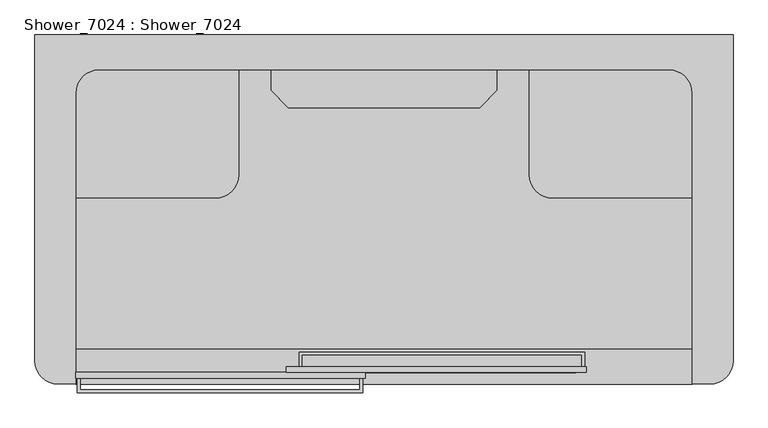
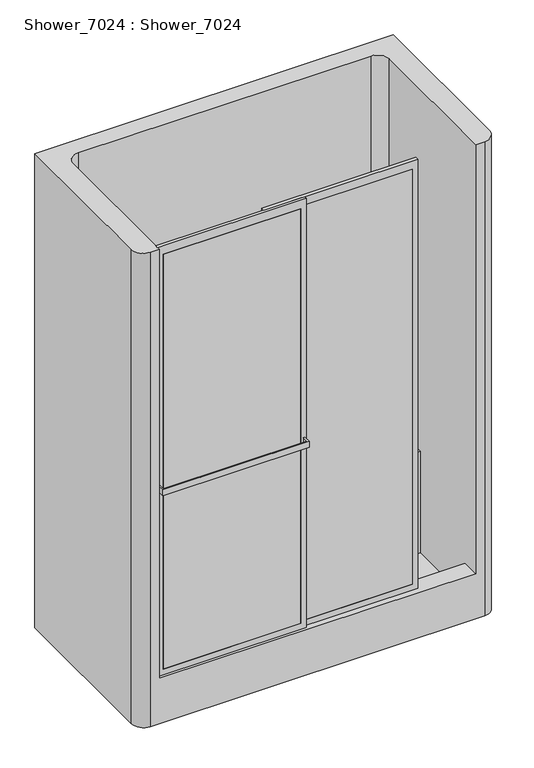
"""IFC4 building model written with IfcOpenShell, lengths in millimetres: flow terminal geometry, Shower_7024 : Shower_7024."""

from ifc_helpers import new_model, si_unit, point, frame, frame_2d, origin, place, context, project, spatial, polyline, circle_curve, trimmed, segment, composite_curve, outline, extrude, faceted_brep, source, transform, mapped, element, save
from ifc_brep_helpers import plane_surface, cylinder_surface, revolved_surface, advanced_brep


def shower_7024_shower_7024_a4580cfa(model_context):
    return source(origin(), model_context, "Body", "SolidModel", [
        extrude(outline(polyline([(-146.84375, -768.35), (476.1789404, -768.35), (476.1789404, -800.1), (469.8289404, -800.1), (469.8289404, -774.7), (-141.2344719, -774.7), (-141.2344719, -800.1), (-146.84375, -800.1), (-146.84375, -768.35)])), frame((0.0, 0.0, 1036.0429691), z_axis=(0.0, 0.0, 1.0), x_axis=(1.0, 0.0, 0.0)), (0.0, 0.0, 1.0), 25.4),
        extrude(outline(polyline([(-631.03125, -857.25), (-631.03125, -825.5), (-625.4219719, -825.5), (-625.4219719, -850.9), (-14.3585596, -850.9), (-14.3585596, -825.5), (-8.0085596, -825.5), (-8.0085596, -857.25), (-631.03125, -857.25)])), frame((0.0, 0.0, 1036.0429691), z_axis=(0.0, 0.0, 1.0), x_axis=(1.0, 0.0, 0.0)), (0.0, 0.0, 1.0), 25.4),
        extrude(outline(polyline([(2133.6, 479.3759501), (2133.6, -175.6674756), (203.2, -175.6674756), (203.2, 479.3759501), (2133.6, 479.3759501)]), holes=[polyline([(2095.2762363, 457.2), (229.410232, 457.2), (229.410232, -152.4), (2095.2762363, -152.4), (2095.2762363, 457.2)])]), frame((0.0, -812.8, 0.0), z_axis=(0.0, 1.0, 0.0), x_axis=(0.0, 0.0, 1.0)), (0.0, 0.0, 1.0), 12.7),
        extrude(outline(polyline([(457.2, -812.8), (-152.4, -812.8), (-152.4, -800.1), (457.2, -800.1), (457.2, -812.8)])), frame((0.0, 0.0, 229.410232), z_axis=(0.0, 0.0, 1.0), x_axis=(1.0, 0.0, 0.0)), (0.0, 0.0, 1.0), 1865.8660043),
        extrude(outline(polyline([(2133.6, -2.895103), (2133.6, -635.0), (203.2, -635.0), (203.2, -2.895103), (2133.6, -2.895103)]), holes=[polyline([(2095.2762363, -25.4), (229.410232, -25.4), (229.410232, -611.2742901), (2095.2762363, -611.2742901), (2095.2762363, -25.4)])]), frame((0.0, -825.5, 0.0), z_axis=(0.0, 1.0, 0.0), x_axis=(0.0, 0.0, 1.0)), (0.0, 0.0, 1.0), 12.7),
        extrude(outline(polyline([(-25.4, -825.5), (-611.2742901, -825.5), (-611.2742901, -812.8), (-25.4, -812.8), (-25.4, -825.5)])), frame((0.0, 0.0, 229.410232), z_axis=(0.0, 0.0, 1.0), x_axis=(1.0, 0.0, 0.0)), (0.0, 0.0, 1.0), 1865.8660043),
        faceted_brep([(-208.4605122, -196.85, 1389.3112655), (-170.3605122, -234.95, 1389.3112655), (246.5605122, -234.95, 1389.3112655), (284.6605122, -196.85, 1389.3112655), (284.6605122, -152.4, 1389.3112655), (-208.4605122, -152.4, 1389.3112655), (-208.4605122, -196.85, 625.0857334), (-208.4605122, -152.4, 625.0857334), (284.6605122, -152.4, 625.0857334), (284.6605122, -196.85, 625.0857334), (246.5605122, -234.95, 625.0857334), (-170.3605122, -234.95, 625.0857334), (-170.3605122, -234.95, 660.4), (-190.5, -214.8105122, 660.4), (-190.5, -214.8105122, 863.6), (-170.3605122, -234.95, 863.6), (-170.3605122, -234.95, 908.05), (-190.5, -214.8105122, 908.05), (-190.5, -214.8105122, 1111.25), (-170.3605122, -234.95, 1111.25), (-170.3605122, -234.95, 1162.05), (-190.5, -214.8105122, 1162.05), (-190.5, -214.8105122, 1365.25), (-170.3605122, -234.95, 1365.25), (246.5605122, -234.95, 1365.25), (246.5605122, -234.95, 660.4), (246.5605122, -234.95, 863.6), (246.5605122, -234.95, 908.05), (246.5605122, -234.95, 1111.25), (246.5605122, -234.95, 1162.05), (266.7, -214.8105122, 1365.25), (266.7, -214.8105122, 1162.05), (266.7, -214.8105122, 1111.25), (266.7, -214.8105122, 908.05), (266.7, -214.8105122, 863.6), (266.7, -214.8105122, 660.4), (266.7, -163.5489759, 660.4), (266.7, -163.5489759, 863.6), (-190.5, -163.5489759, 863.6), (-190.5, -163.5489759, 660.4), (266.7, -163.5489759, 908.05), (266.7, -163.5489759, 1111.25), (-190.5, -163.5489759, 1111.25), (-190.5, -163.5489759, 908.05), (266.7, -163.5489759, 1162.05), (266.7, -163.5489759, 1365.25), (-190.5, -163.5489759, 1365.25), (-190.5, -163.5489759, 1162.05)], [[[0, 1, 2, 3, 4, 5]], [[6, 7, 8, 9, 10, 11]], [[1, 0, 6, 11, 12, 13, 14, 15, 16, 17, 18, 19, 20, 21, 22, 23]], [[2, 1, 23, 24]], [[11, 10, 25, 12]], [[16, 15, 26, 27]], [[20, 19, 28, 29]], [[3, 2, 24, 30, 31, 29, 28, 32, 33, 27, 26, 34, 35, 25, 10, 9]], [[4, 3, 9, 8]], [[5, 4, 8, 7]], [[0, 5, 7, 6]], [[36, 37, 38, 39]], [[40, 41, 42, 43]], [[44, 45, 46, 47]], [[36, 39, 13, 12, 25, 35]], [[39, 38, 14, 13]], [[38, 37, 34, 26, 15, 14]], [[37, 36, 35, 34]], [[40, 43, 17, 16, 27, 33]], [[43, 42, 18, 17]], [[42, 41, 32, 28, 19, 18]], [[41, 40, 33, 32]], [[44, 47, 21, 20, 29, 31]], [[47, 46, 22, 21]], [[46, 45, 30, 24, 23, 22]], [[45, 44, 31, 30]]]),
        extrude(outline(composite_curve([segment(polyline([(-330.2, -431.8), (-635.0, -431.8), (-635.0, -152.4), (-279.4, -152.4), (-279.4, -381.0)]), True, "CONTINUOUS"), segment(trimmed(circle_curve(frame_2d((-330.2, -381.0)), 50.8), [point((-279.4, -381.0))], [point((-330.2, -431.8))], False, "CARTESIAN"), True, "CONTINUOUS")], self_intersect=False)), frame((0.0, 0.0, 50.8), z_axis=(0.0, 0.0, 1.0), x_axis=(1.0, 0.0, 0.0)), (0.0, 0.0, 1.0), 457.2),
        extrude(outline(composite_curve([segment(trimmed(circle_curve(frame_2d((406.4, -381.0)), 50.8), [point((406.4, -431.8))], [point((355.6, -381.0))], False, "CARTESIAN"), True, "CONTINUOUS"), segment(polyline([(355.6, -381.0), (355.6, -152.4), (711.2, -152.4), (711.2, -431.8), (406.4, -431.8)]), True, "CONTINUOUS")], self_intersect=False)), frame((0.0, 0.0, 50.8), z_axis=(0.0, 0.0, 1.0), x_axis=(1.0, 0.0, 0.0)), (0.0, 0.0, 1.0), 457.2),
        advanced_brep(
        [(-723.9, -787.4, 2133.6), (-673.1, -838.2, 2133.6), (-635.0, -838.2, 2133.6), (-635.0, -203.2, 2133.6), (-584.2, -152.4, 2133.6), (660.4, -152.4, 2133.6), (711.2, -203.2, 2133.6), (711.2, -838.2, 2133.6), (749.3, -838.2, 2133.6), (800.1, -787.4, 2133.6), (800.1, -76.2, 2133.6), (-723.9, -76.2, 2133.6), (-723.9, -787.4, 0.0), (-723.9, -76.2, 0.0), (800.1, -76.2, 0.0), (800.1, -787.4, 0.0), (749.3, -838.2, 0.0), (-673.1, -838.2, 0.0), (711.2, -838.2, 203.2), (-635.0, -838.2, 203.2), (711.2, -762.0, 203.2), (-635.0, -762.0, 203.2), (711.2, -203.2, 203.2), (711.2, -152.4, 203.2), (711.2, -152.4, 50.8), (711.2, -762.0, 50.8), (-635.0, -203.2, 203.2), (-635.0, -762.0, 50.8), (-635.0, -152.4, 50.8), (-635.0, -152.4, 203.2), (-584.2, -152.4, 203.2), (660.4, -152.4, 203.2)],
        [
            (0, 1, circle_curve(frame((-673.1, -787.4, 2133.6), z_axis=(0.0, 0.0, 1.0), x_axis=(1.0, 0.0, 0.0)), 50.8)),
            (1, 2),
            (2, 3),
            (3, 4, circle_curve(frame((-584.2, -203.2, 2133.6), z_axis=(0.0, 0.0, -1.0), x_axis=(-1.0, 0.0, 0.0)), 50.8)),
            (4, 5),
            (5, 6, circle_curve(frame((660.4, -203.2, 2133.6), z_axis=(0.0, 0.0, -1.0), x_axis=(-1.0, 0.0, 0.0)), 50.8)),
            (6, 7),
            (7, 8),
            (8, 9, circle_curve(frame((749.3, -787.4, 2133.6), z_axis=(0.0, 0.0, 1.0), x_axis=(1.0, 0.0, 0.0)), 50.8)),
            (9, 10),
            (10, 11),
            (11, 0),
            (12, 13),
            (13, 14),
            (14, 15),
            (15, 16, circle_curve(frame((749.3, -787.4, 0.0), z_axis=(0.0, 0.0, -1.0), x_axis=(1.0, 0.0, 0.0)), 50.8)),
            (16, 17),
            (17, 12, circle_curve(frame((-673.1, -787.4, 0.0), z_axis=(0.0, 0.0, -1.0), x_axis=(1.0, 0.0, 0.0)), 50.8)),
            (0, 12),
            (17, 1),
            (16, 8),
            (7, 18),
            (18, 19),
            (19, 2),
            (15, 9),
            (14, 10),
            (13, 11),
            (18, 20),
            (20, 21),
            (21, 19),
            (6, 22),
            (22, 23),
            (23, 24),
            (24, 25),
            (25, 20),
            (26, 3),
            (21, 27),
            (27, 28),
            (28, 29),
            (29, 26),
            (26, 30, circle_curve(frame((-584.2, -203.2, 203.2), z_axis=(0.0, 0.0, -1.0), x_axis=(-1.0, 0.0, 0.0)), 50.8)),
            (30, 4),
            (30, 29),
            (28, 24),
            (23, 31),
            (31, 5),
            (31, 22, circle_curve(frame((660.4, -203.2, 203.2), z_axis=(0.0, 0.0, -1.0), x_axis=(-1.0, 0.0, 0.0)), 50.8)),
            (27, 25),
        ],
        [
            plane_surface(frame((-622.3, -787.4, 2133.6), z_axis=(0.0, 0.0, 1.0), x_axis=(0.0, 1.0, 0.0))),
            plane_surface(frame((-622.3, -787.4, 0.0), z_axis=(0.0, 0.0, -1.0), x_axis=(0.0, -1.0, 0.0))),
            cylinder_surface(frame((-673.1, -787.4, 0.0), z_axis=(0.0, 0.0, 1.0), x_axis=(1.0, 0.0, 0.0)), 50.8),
            plane_surface(frame((-673.1, -838.2, 2133.6), z_axis=(0.0, -1.0, 0.0), x_axis=(0.0, 0.0, -1.0))),
            cylinder_surface(frame((749.3, -787.4, 0.0), z_axis=(0.0, 0.0, 1.0), x_axis=(1.0, 0.0, 0.0)), 50.8),
            plane_surface(frame((800.1, -787.4, 2133.6), z_axis=(1.0, 0.0, 0.0), x_axis=(0.0, 0.0, -1.0))),
            plane_surface(frame((800.1, -76.2, 2133.6), z_axis=(0.0, 1.0, 0.0), x_axis=(0.0, 0.0, -1.0))),
            plane_surface(frame((-723.9, -76.2, 2133.6), z_axis=(-1.0, 0.0, 0.0), x_axis=(0.0, 0.0, -1.0))),
            plane_surface(frame((711.2, -685.8, 203.2), z_axis=(0.0, 0.0, 1.0), x_axis=(0.0, -1.0, 0.0))),
            plane_surface(frame((711.2, -203.2, 203.2), z_axis=(-1.0, 0.0, 0.0), x_axis=(0.0, 0.0, 1.0))),
            plane_surface(frame((-635.0, -838.2, 203.2), z_axis=(1.0, 0.0, 0.0), x_axis=(0.0, 0.0, 1.0))),
            revolved_surface(polyline([(-635.0, -203.2, 203.20000000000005), (-635.0, -203.2, 2133.6)]), (-584.2, -203.2, 2133.6), (0.0, 0.0, -1.0)),
            plane_surface(frame((-584.2, -152.4, 203.2), z_axis=(0.0, -1.0, 0.0), x_axis=(0.0, 0.0, 1.0))),
            revolved_surface(polyline([(609.6, -203.2, 203.20000000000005), (609.6, -203.2, 2133.6)]), (660.4, -203.2, 2133.6), (0.0, 0.0, -1.0)),
            plane_surface(frame((-635.0, -635.0, 50.8), z_axis=(0.0, 0.0, 1.0), x_axis=(0.0, 1.0, 0.0))),
            plane_surface(frame((-635.0, -635.0, 203.2), z_axis=(0.0, 0.0, -1.0), x_axis=(0.0, -1.0, 0.0))),
            plane_surface(frame((711.2, -762.0, 50.8), z_axis=(0.0, 1.0, 0.0), x_axis=(0.0, 0.0, 1.0))),
        ],
        [
            (0, [[1, 2, 3, 4, 5, 6, 7, 8, 9, 10, 11, 12]]),
            (1, [[13, 14, 15, 16, 17, 18]]),
            (2, [[-1, 19, -18, 20]]),
            (3, [[-17, 21, -8, 22, 23, 24, -2, -20]]),
            (4, [[-9, -21, -16, 25]]),
            (5, [[-10, -25, -15, 26]]),
            (6, [[-11, -26, -14, 27]]),
            (7, [[-12, -27, -13, -19]]),
            (8, [[-23, 28, 29, 30]]),
            (9, [[31, 32, 33, 34, 35, -28, -22, -7]]),
            (10, [[36, -3, -24, -30, 37, 38, 39, 40]]),
            (11, [[-36, 41, 42, -4]]),
            (12, [[-42, 43, -39, 44, -33, 45, 46, -5]]),
            (13, [[-31, -6, -46, 47]]),
            (14, [[48, -34, -44, -38]]),
            (15, [[-32, -47, -45]]),
            (15, [[-43, -41, -40]]),
            (16, [[-48, -37, -29, -35]]),
        ],
    ),
    ])


if __name__ == "__main__":
    model = new_model("IFC4")
    model_context = context("Model", 3, world=origin())
    ifc_project = project(units=[si_unit("LENGTHUNIT", "METRE", prefix="MILLI")], contexts=[model_context])
    site = spatial("IfcSite", under=ifc_project)
    building = spatial("IfcBuilding", under=site)
    placement = place(None, origin())
    shower_7024_shower_7024_shape = shower_7024_shower_7024_a4580cfa(model_context)
    element("IfcFlowTerminal", 1, ObjectType="Shower_7024 : Shower_7024", at=placement, inside=building, context=model_context, shape_type="MappedRepresentation", body=[
        mapped(shower_7024_shower_7024_shape, transform((0.0, 0.0, 0.0), x_axis=(1.0, 0.0, 0.0), y_axis=(0.0, 1.0, 0.0), z_axis=(0.0, 0.0, 1.0))),
    ])
    save(model, "model.ifc")
